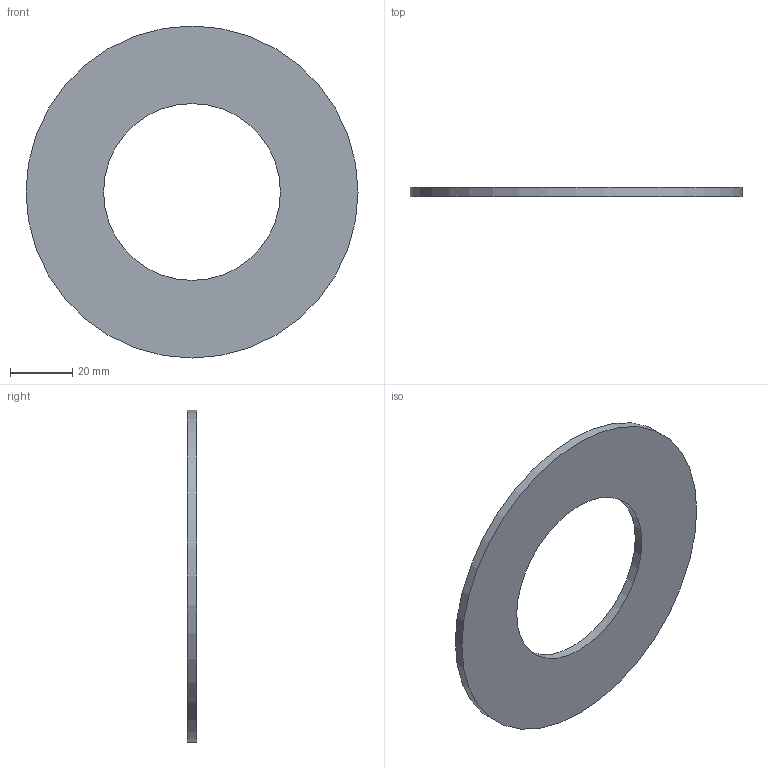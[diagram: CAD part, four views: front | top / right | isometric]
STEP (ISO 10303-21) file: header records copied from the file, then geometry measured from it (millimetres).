
FILE_DESCRIPTION(/* description */ ('Unknown'),/* implementation_level */ '2;1');
FILE_NAME(/* name */ 'GUA.063B',/* time_stamp */ '2021-04-01T11:24:06+02:00',/* author */ ('Unknown'),/* organization */ ('Unknown'),/* preprocessor_version */ 'ST-DEVELOPER v16.7',/* originating_system */ 'Solid Edge',/* authorisation */ 'Unknown');
FILE_SCHEMA (('AUTOMOTIVE_DESIGN {1 0 10303 214 3 1 1}'));
Length unit declared in the file: millimetre
Products named in the file (1): GUA.063B
Bounding box: 107 x 3 x 107 mm (x, y, z)
Volume: 19320.8 mm3; surface area: 14426.2 mm2
Topology: 1 solids, 1 shells, 4 faces, 6 edges, 4 vertices
Faces by surface type: cylinder 2, plane 2
Full cylindrical faces by diameter (mm): 57 x1, 107 x1
Entity records: 118 total; most frequent: DIRECTION 18, CARTESIAN_POINT 13, AXIS2_PLACEMENT_3D 9, ORIENTED_EDGE 8, EDGE_LOOP 8, FACE_BOUND 8, EDGE_CURVE 4, VERTEX_POINT 4
